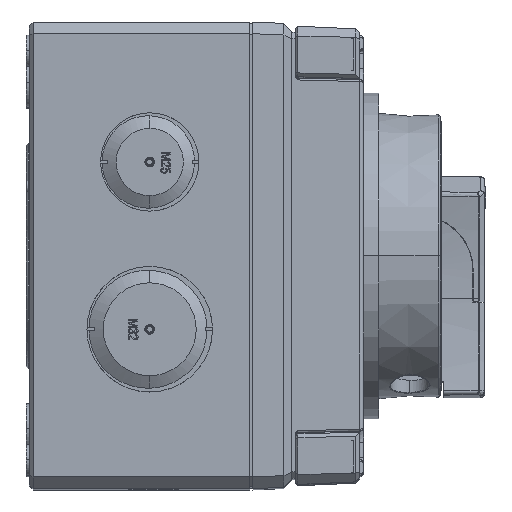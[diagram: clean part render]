
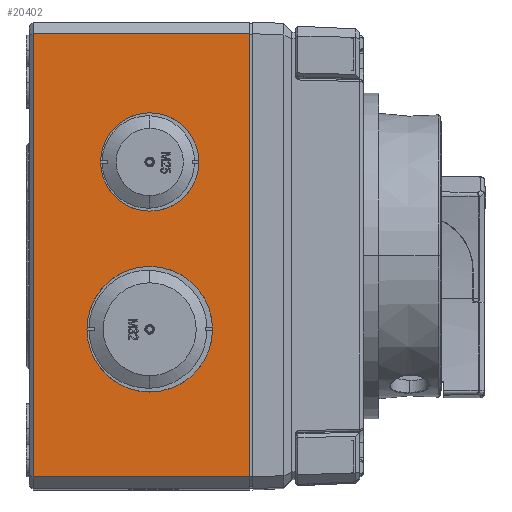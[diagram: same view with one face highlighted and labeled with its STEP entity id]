
A CAD part, top view. The second image highlights one B-rep face of the part: STEP entity #20402.
In plain terms, the highlighted planar face has unit normal (0, 0, 1).
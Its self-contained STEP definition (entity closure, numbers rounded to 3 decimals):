
#6 = DIRECTION ( 'NONE',  ( 0., -1., 0. ) ) ;
#452 = AXIS2_PLACEMENT_3D ( 'NONE', #65422, #98662, #65941 ) ;
#1932 = DIRECTION ( 'NONE',  ( 0., -1., 0. ) ) ;
#2847 = VECTOR ( 'NONE', #1932, 1000. ) ;
#3900 = ORIENTED_EDGE ( 'NONE', *, *, #63660, .T. ) ;
#4386 = EDGE_LOOP ( 'NONE', ( #42394, #5141 ) ) ;
#5137 = ORIENTED_EDGE ( 'NONE', *, *, #100298, .F. ) ;
#5141 = ORIENTED_EDGE ( 'NONE', *, *, #83930, .T. ) ;
#7328 = VERTEX_POINT ( 'NONE', #17948 ) ;
#8405 = LINE ( 'NONE', #97034, #28959 ) ;
#9807 = EDGE_LOOP ( 'NONE', ( #5137, #20617 ) ) ;
#10052 = EDGE_CURVE ( 'NONE', #23036, #38828, #63317, .T. ) ;
#10659 = DIRECTION ( 'NONE',  ( 0., -1., 0. ) ) ;
#16127 = FACE_BOUND ( 'NONE', #4386, .T. ) ;
#16505 = VERTEX_POINT ( 'NONE', #77073 ) ;
#17948 = CARTESIAN_POINT ( 'NONE',  ( -56.625, -5108.282, -1309. ) ) ;
#20402 = ADVANCED_FACE ( 'NONE', ( #16127, #105308, #97781 ), #23694, .T. ) ;
#20544 = CARTESIAN_POINT ( 'NONE',  ( -26.625, -5141.279, -1309. ) ) ;
#20617 = ORIENTED_EDGE ( 'NONE', *, *, #10052, .F. ) ;
#22487 = VERTEX_POINT ( 'NONE', #70140 ) ;
#23036 = VERTEX_POINT ( 'NONE', #96816 ) ;
#23694 = PLANE ( 'NONE',  #79014 ) ;
#23867 = CARTESIAN_POINT ( 'NONE',  ( -26.625, -5153.929, -1309. ) ) ;
#24589 = CIRCLE ( 'NONE', #452, 16.15 ) ;
#28959 = VECTOR ( 'NONE', #49244, 1000. ) ;
#30909 = VECTOR ( 'NONE', #79574, 1000. ) ;
#33697 = LINE ( 'NONE', #34213, #2847 ) ;
#34213 = CARTESIAN_POINT ( 'NONE',  ( -0.925, -5108.282, -1309. ) ) ;
#37191 = DIRECTION ( 'NONE',  ( 0., -1., 0. ) ) ;
#37439 = EDGE_CURVE ( 'NONE', #16505, #95905, #24589, .T. ) ;
#38828 = VERTEX_POINT ( 'NONE', #23867 ) ;
#39596 = CIRCLE ( 'NONE', #89262, 12.65 ) ;
#40314 = CARTESIAN_POINT ( 'NONE',  ( -0.125, -5108.282, -1309. ) ) ;
#42394 = ORIENTED_EDGE ( 'NONE', *, *, #37439, .T. ) ;
#44526 = CARTESIAN_POINT ( 'NONE',  ( -42.775, -5184.279, -1309. ) ) ;
#46191 = VERTEX_POINT ( 'NONE', #82038 ) ;
#46304 = DIRECTION ( 'NONE',  ( 0., 0., 1. ) ) ;
#47049 = DIRECTION ( 'NONE',  ( 0., -1., 0. ) ) ;
#49244 = DIRECTION ( 'NONE',  ( 1., 0., 0. ) ) ;
#52985 = EDGE_LOOP ( 'NONE', ( #3900, #86937, #54457, #66776 ) ) ;
#53980 = DIRECTION ( 'NONE',  ( 0., 0., -1. ) ) ;
#54457 = ORIENTED_EDGE ( 'NONE', *, *, #81865, .T. ) ;
#58034 = DIRECTION ( 'NONE',  ( -1., 0., 0. ) ) ;
#58485 = AXIS2_PLACEMENT_3D ( 'NONE', #60094, #53980, #10659 ) ;
#58560 = LINE ( 'NONE', #40314, #101266 ) ;
#60094 = CARTESIAN_POINT ( 'NONE',  ( -26.625, -5184.279, -1309. ) ) ;
#60501 = EDGE_CURVE ( 'NONE', #22487, #46191, #33697, .T. ) ;
#63317 = CIRCLE ( 'NONE', #87405, 12.65 ) ;
#63660 = EDGE_CURVE ( 'NONE', #71327, #46191, #8405, .T. ) ;
#63733 = DIRECTION ( 'NONE',  ( 0., 0., 1. ) ) ;
#64543 = DIRECTION ( 'NONE',  ( 0., 0., 1. ) ) ;
#65422 = CARTESIAN_POINT ( 'NONE',  ( -26.625, -5184.279, -1309. ) ) ;
#65604 = CARTESIAN_POINT ( 'NONE',  ( -0.125, -5165.279, -1309. ) ) ;
#65941 = DIRECTION ( 'NONE',  ( 0., -1., 0. ) ) ;
#66776 = ORIENTED_EDGE ( 'NONE', *, *, #79344, .T. ) ;
#70140 = CARTESIAN_POINT ( 'NONE',  ( -0.925, -5108.282, -1309. ) ) ;
#71327 = VERTEX_POINT ( 'NONE', #81697 ) ;
#73089 = CARTESIAN_POINT ( 'NONE',  ( -56.625, -5165.279, -1309. ) ) ;
#77073 = CARTESIAN_POINT ( 'NONE',  ( -10.475, -5184.279, -1309. ) ) ;
#79014 = AXIS2_PLACEMENT_3D ( 'NONE', #65604, #64543, #6 ) ;
#79344 = EDGE_CURVE ( 'NONE', #7328, #71327, #81162, .T. ) ;
#79574 = DIRECTION ( 'NONE',  ( 0., -1., 0. ) ) ;
#81162 = LINE ( 'NONE', #73089, #30909 ) ;
#81697 = CARTESIAN_POINT ( 'NONE',  ( -56.625, -5222.276, -1309. ) ) ;
#81865 = EDGE_CURVE ( 'NONE', #22487, #7328, #58560, .T. ) ;
#82038 = CARTESIAN_POINT ( 'NONE',  ( -0.925, -5222.276, -1309. ) ) ;
#83930 = EDGE_CURVE ( 'NONE', #95905, #16505, #104784, .T. ) ;
#86937 = ORIENTED_EDGE ( 'NONE', *, *, #60501, .F. ) ;
#87405 = AXIS2_PLACEMENT_3D ( 'NONE', #94848, #63733, #47049 ) ;
#89262 = AXIS2_PLACEMENT_3D ( 'NONE', #20544, #46304, #37191 ) ;
#94848 = CARTESIAN_POINT ( 'NONE',  ( -26.625, -5141.279, -1309. ) ) ;
#95905 = VERTEX_POINT ( 'NONE', #44526 ) ;
#96816 = CARTESIAN_POINT ( 'NONE',  ( -26.625, -5128.629, -1309. ) ) ;
#97034 = CARTESIAN_POINT ( 'NONE',  ( -0.125, -5222.276, -1309. ) ) ;
#97781 = FACE_OUTER_BOUND ( 'NONE', #52985, .T. ) ;
#98662 = DIRECTION ( 'NONE',  ( 0., 0., -1. ) ) ;
#100298 = EDGE_CURVE ( 'NONE', #38828, #23036, #39596, .T. ) ;
#101266 = VECTOR ( 'NONE', #58034, 1000. ) ;
#104784 = CIRCLE ( 'NONE', #58485, 16.15 ) ;
#105308 = FACE_BOUND ( 'NONE', #9807, .T. ) ;
